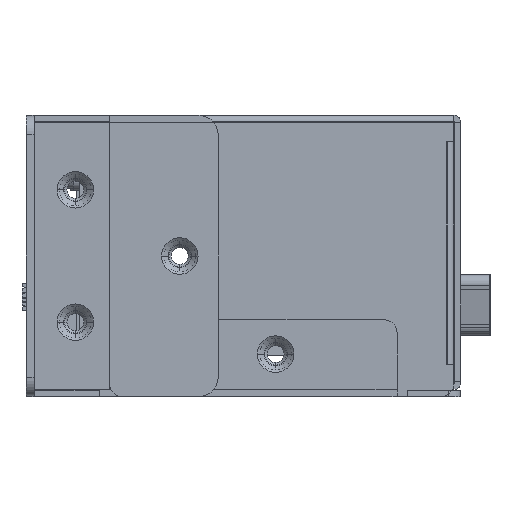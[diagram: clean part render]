
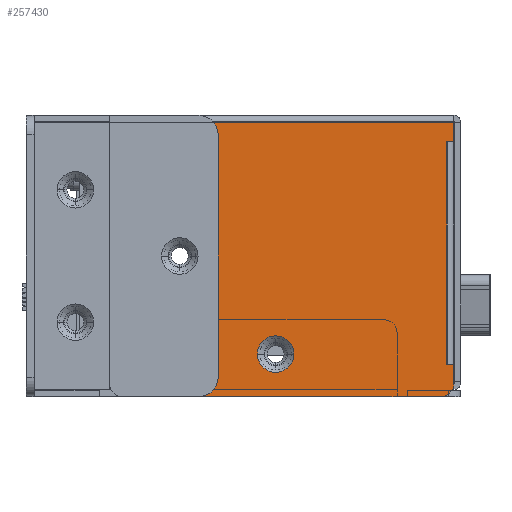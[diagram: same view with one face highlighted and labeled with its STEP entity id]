
A CAD part, left-side view. The second image highlights one B-rep face of the part: STEP entity #257430.
In plain terms, the highlighted planar face has unit normal (-1, 0, 0).
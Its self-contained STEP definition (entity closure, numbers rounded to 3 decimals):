
#227840=CARTESIAN_POINT('',(-25.552,246.564,
41.383));
#227850=VERTEX_POINT('',#227840);
#227880=CARTESIAN_POINT('',(-25.552,246.564,
40.558));
#227890=DIRECTION('',(0.,0.,1.));
#227900=VECTOR('',#227890,1.);
#227910=LINE('',#227880,#227900);
#227920=CARTESIAN_POINT('',(-25.552,246.564,
0.483));
#227930=VERTEX_POINT('',#227920);
#227940=EDGE_CURVE('',#227930,#227850,#227910,.T.);
#256240=CARTESIAN_POINT('',(-25.552,217.714,
5.133));
#256250=VERTEX_POINT('',#256240);
#256280=CARTESIAN_POINT('',(-25.552,220.564,
5.133));
#256290=DIRECTION('',(-1.,0.,0.));
#256300=DIRECTION('',(0.,-1.,0.));
#256310=AXIS2_PLACEMENT_3D('',#256280,#256290,#256300);
#256320=CIRCLE('',#256310,2.85);
#256330=CARTESIAN_POINT('',(-25.552,223.414,
5.133));
#256340=VERTEX_POINT('',#256330);
#256350=EDGE_CURVE('',#256340,#256250,#256320,.T.);
#256470=CARTESIAN_POINT('',(-25.552,192.664,
41.383));
#256480=DIRECTION('',(-1.,0.,-0.));
#256490=DIRECTION('',(0.,0.,-1.));
#256500=AXIS2_PLACEMENT_3D('',#256470,#256480,#256490);
#256510=PLANE('',#256500);
#256520=CARTESIAN_POINT('',(-25.552,235.564,
20.483));
#256530=DIRECTION('',(-1.,0.,0.));
#256540=DIRECTION('',(0.,0.,1.));
#256550=AXIS2_PLACEMENT_3D('',#256520,#256530,#256540);
#256560=CIRCLE('',#256550,1.825);
#256570=CARTESIAN_POINT('',(-25.552,235.564,
22.308));
#256580=VERTEX_POINT('',#256570);
#256590=CARTESIAN_POINT('',(-25.552,235.564,
18.658));
#256600=VERTEX_POINT('',#256590);
#256610=EDGE_CURVE('',#256580,#256600,#256560,.T.);
#256620=ORIENTED_EDGE('',*,*,#256610,.F.);
#256630=EDGE_CURVE('',#256600,#256580,#256560,.T.);
#256640=ORIENTED_EDGE('',*,*,#256630,.F.);
#256650=EDGE_LOOP('',(#256640,#256620));
#256660=FACE_BOUND('',#256650,.T.);
#256670=ORIENTED_EDGE('',*,*,#256350,.F.);
#256680=EDGE_CURVE('',#256250,#256340,#256320,.T.);
#256690=ORIENTED_EDGE('',*,*,#256680,.F.);
#256700=EDGE_LOOP('',(#256690,#256670));
#256710=FACE_BOUND('',#256700,.T.);
#256720=CARTESIAN_POINT('',(-25.552,192.664,
467.475));
#256730=DIRECTION('',(0.,0.,-1.));
#256740=VECTOR('',#256730,1.);
#256750=LINE('',#256720,#256740);
#256760=CARTESIAN_POINT('',(-25.552,192.664,
41.383));
#256770=VERTEX_POINT('',#256760);
#256780=CARTESIAN_POINT('',(-25.552,192.664,
38.383));
#256790=VERTEX_POINT('',#256780);
#256800=EDGE_CURVE('',#256770,#256790,#256750,.T.);
#256810=ORIENTED_EDGE('',*,*,#256800,.F.);
#256820=CARTESIAN_POINT('',(-25.552,191.564,
38.383));
#256830=DIRECTION('',(0.,1.,0.));
#256840=VECTOR('',#256830,1.);
#256850=LINE('',#256820,#256840);
#256860=CARTESIAN_POINT('',(-25.552,193.764,
38.383));
#256870=VERTEX_POINT('',#256860);
#256880=EDGE_CURVE('',#256790,#256870,#256850,.T.);
#256890=ORIENTED_EDGE('',*,*,#256880,.F.);
#256900=CARTESIAN_POINT('',(-25.552,193.764,
8.338));
#256910=DIRECTION('',(0.,0.,-1.));
#256920=VECTOR('',#256910,1.);
#256930=LINE('',#256900,#256920);
#256940=CARTESIAN_POINT('',(-25.552,193.764,
3.483));
#256950=VERTEX_POINT('',#256940);
#256960=EDGE_CURVE('',#256870,#256950,#256930,.T.);
#256970=ORIENTED_EDGE('',*,*,#256960,.F.);
#256980=CARTESIAN_POINT('',(-25.552,191.564,
3.483));
#256990=DIRECTION('',(0.,1.,0.));
#257000=VECTOR('',#256990,1.);
#257010=LINE('',#256980,#257000);
#257020=CARTESIAN_POINT('',(-25.552,192.664,
3.483));
#257030=VERTEX_POINT('',#257020);
#257040=EDGE_CURVE('',#257030,#256950,#257010,.T.);
#257050=ORIENTED_EDGE('',*,*,#257040,.T.);
#257060=CARTESIAN_POINT('',(-25.552,192.664,
0.483));
#257070=VERTEX_POINT('',#257060);
#257080=EDGE_CURVE('',#257030,#257070,#256750,.T.);
#257090=ORIENTED_EDGE('',*,*,#257080,.F.);
#257100=CARTESIAN_POINT('',(-25.552,194.664,
0.483));
#257110=DIRECTION('',(1.,0.,0.));
#257120=DIRECTION('',(0.,0.,-1.));
#257130=AXIS2_PLACEMENT_3D('',#257100,#257110,#257120);
#257140=CIRCLE('',#257130,2.);
#257150=CARTESIAN_POINT('',(-25.552,194.664,
-1.517));
#257160=VERTEX_POINT('',#257150);
#257170=EDGE_CURVE('',#257070,#257160,#257140,.T.);
#257180=ORIENTED_EDGE('',*,*,#257170,.F.);
#257190=CARTESIAN_POINT('',(-25.552,192.664,
-1.517));
#257200=DIRECTION('',(0.,1.,0.));
#257210=VECTOR('',#257200,1.);
#257220=LINE('',#257190,#257210);
#257230=CARTESIAN_POINT('',(-25.552,244.564,
-1.517));
#257240=VERTEX_POINT('',#257230);
#257250=EDGE_CURVE('',#257160,#257240,#257220,.T.);
#257260=ORIENTED_EDGE('',*,*,#257250,.F.);
#257270=CARTESIAN_POINT('',(-25.552,244.564,
0.483));
#257280=DIRECTION('',(1.,0.,0.));
#257290=DIRECTION('',(0.,0.,-1.));
#257300=AXIS2_PLACEMENT_3D('',#257270,#257280,#257290);
#257310=CIRCLE('',#257300,2.);
#257320=EDGE_CURVE('',#257240,#227930,#257310,.T.);
#257330=ORIENTED_EDGE('',*,*,#257320,.F.);
#257340=ORIENTED_EDGE('',*,*,#227940,.F.);
#257350=CARTESIAN_POINT('',(-25.552,191.564,
41.383));
#257360=DIRECTION('',(0.,1.,0.));
#257370=VECTOR('',#257360,1.);
#257380=LINE('',#257350,#257370);
#257390=EDGE_CURVE('',#256770,#227850,#257380,.T.);
#257400=ORIENTED_EDGE('',*,*,#257390,.T.);
#257410=EDGE_LOOP('',(#257400,#257340,#257330,#257260,#257180,#257090,
#257050,#256970,#256890,#256810));
#257420=FACE_OUTER_BOUND('',#257410,.T.);
#257430=ADVANCED_FACE('',(#256660,#256710,#257420),#256510,.T.);
